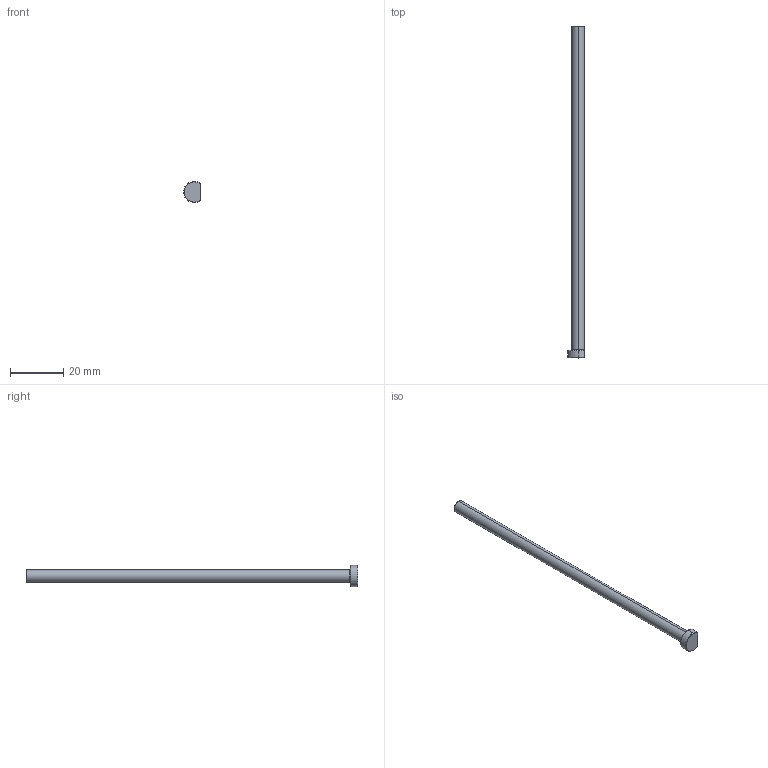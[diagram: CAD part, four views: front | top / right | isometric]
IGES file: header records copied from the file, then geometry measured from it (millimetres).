
Start section: SolidWorks IGES file using analytic representation for surfaces
Global section: file name: C:\Users\365admin\AppData\Local\Temp\InFlowConvert3DWorking\EPD047L125-K.igs; native system: SolidWorks 2019; preprocessor: SolidWorks 2019; author: 365admin; date: 220408.144530; units: millimetre
Bounding box: 6.35 x 125 x 8 mm (x, y, z)
Surface area: 1953.7 mm2 (no closed solid volume)
Topology: 0 solids, 0 shells, 18 faces, 186 edges, 186 vertices
Faces by surface type: revolution 11, bspline 7
